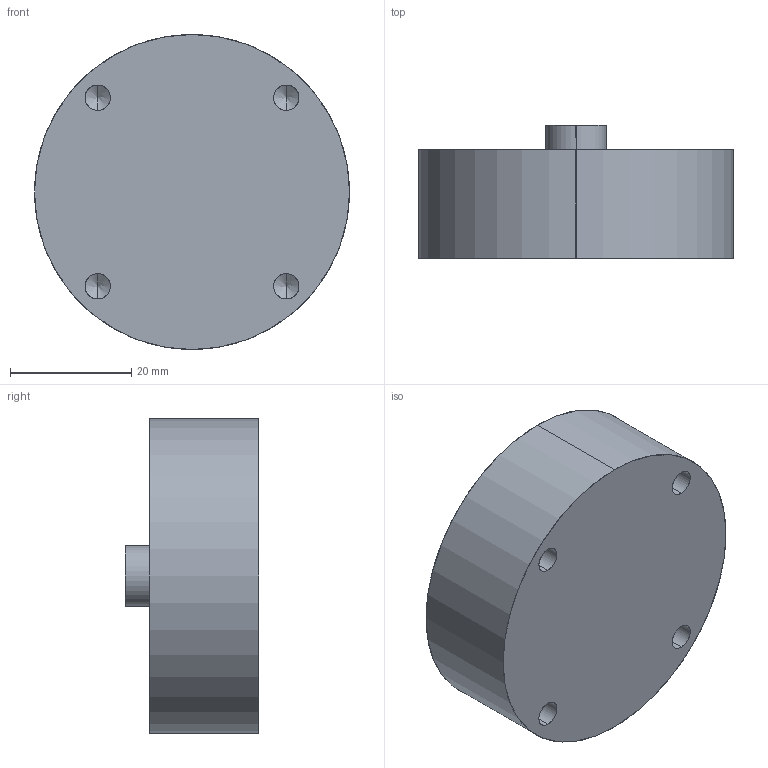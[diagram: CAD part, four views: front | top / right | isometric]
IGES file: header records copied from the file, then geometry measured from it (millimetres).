
Start section: SolidWorks IGES file using analytic representation for surfaces
Global section: file name: C:\Documents and Settings\Soundar\My Documents\Specsheets\Resistive\RSB2\rsb2.IGS; native system: SolidWorks 2009; preprocessor: SolidWorks 2009; author: Soundar; date: 130131.181507; units: millimetre
Bounding box: 52 x 22 x 52 mm (x, y, z)
Surface area: 7970.7 mm2 (no closed solid volume)
Topology: 0 solids, 0 shells, 26 faces, 536 edges, 528 vertices
Faces by surface type: revolution 22, bspline 4
